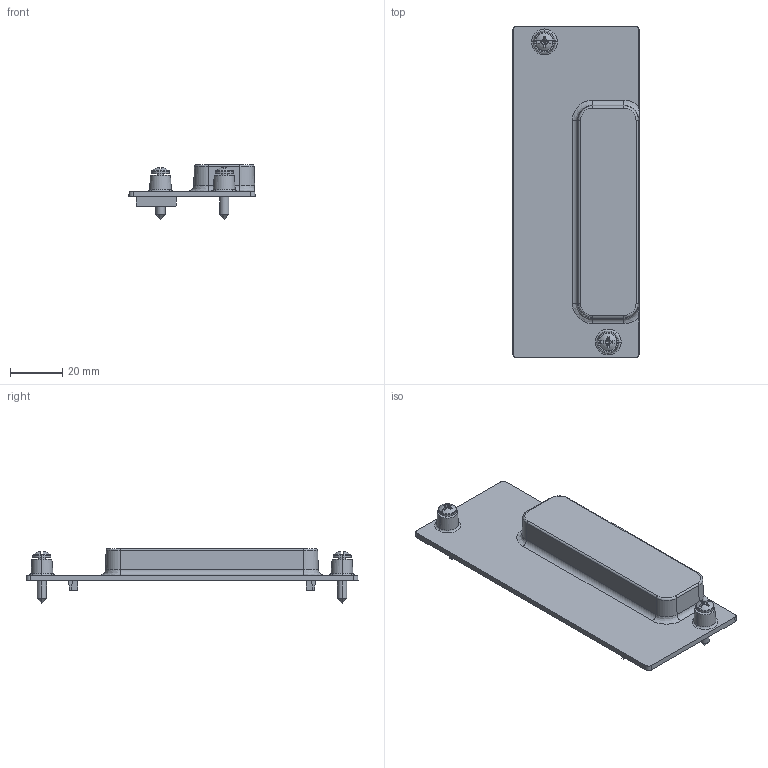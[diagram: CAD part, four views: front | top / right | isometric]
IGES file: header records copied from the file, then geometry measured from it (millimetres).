
Start section:  PTC IGES file: cu_cfp_blank_cover.igs
Global section: file name: cu_cfp_blank_cover.igs; native system: Pro/ENGINEER by Parametric Technology Corporation; preprocessor: 2006300; author: chrisj; organization: Unknown; date: 20070716.150749; units: inch
Bounding box: 48.26 x 127 x 21.03 mm (x, y, z)
Surface area: 17652.3 mm2 (no closed solid volume)
Topology: 0 solids, 0 shells, 204 faces, 978 edges, 934 vertices
Faces by surface type: bspline 121, revolution 83
